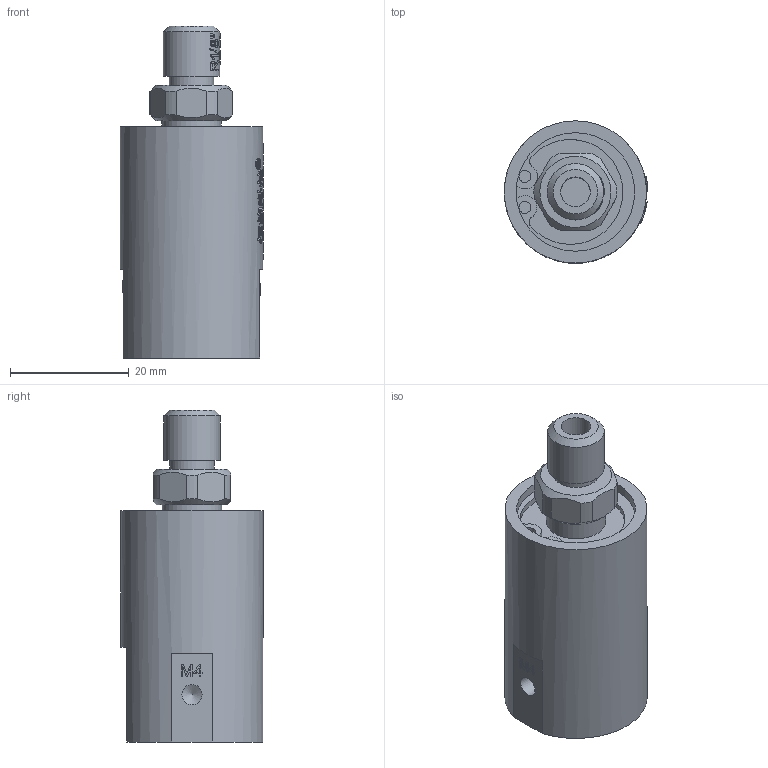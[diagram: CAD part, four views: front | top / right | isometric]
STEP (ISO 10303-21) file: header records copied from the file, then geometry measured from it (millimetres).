
FILE_DESCRIPTION(/* description */ (''),/* implementation_level */ '2;1');
FILE_NAME(/* name */ 'HC0101(RH)-3D模型.stp',/* time_stamp */ '2025-07-05T16:04:23+08:00',/* author */ (''),/* organization */ (''),/* preprocessor_version */ 'ST-DEVELOPER v16.7',/* originating_system */ 'SIEMENS PLM Software NX 12.0',/* authorisation */ '');
FILE_SCHEMA (('AUTOMOTIVE_DESIGN { 1 0 10303 214 3 1 1 1 }'));
Length unit declared in the file: millimetre
Products named in the file (1): Admi0F5C2A87wmhd
Bounding box: 24.2 x 24 x 56 mm (x, y, z)
Volume: 16888.4 mm3; surface area: 6085.1 mm2
Topology: 1 solids, 1 shells, 958 faces, 2648 edges, 1766 vertices
Faces by surface type: extrusion 498, plane 363, bspline 48, cylinder 44, cone 5
Full cylindrical faces by diameter (mm): 2 x2, 3.4 x2, 5 x2, 7.5 x1, 8.5 x1, 9.5 x1, 10 x1, 20 x1, 21 x1, 24 x1
Entity records: 38641 total; most frequent: CARTESIAN_POINT 18121, ORIENTED_EDGE 5204, EDGE_CURVE 2602, B_SPLINE_CURVE_WITH_KNOTS 2429, DIRECTION 2221, VERTEX_POINT 1746, EDGE_LOOP 1056, ADVANCED_FACE 957
